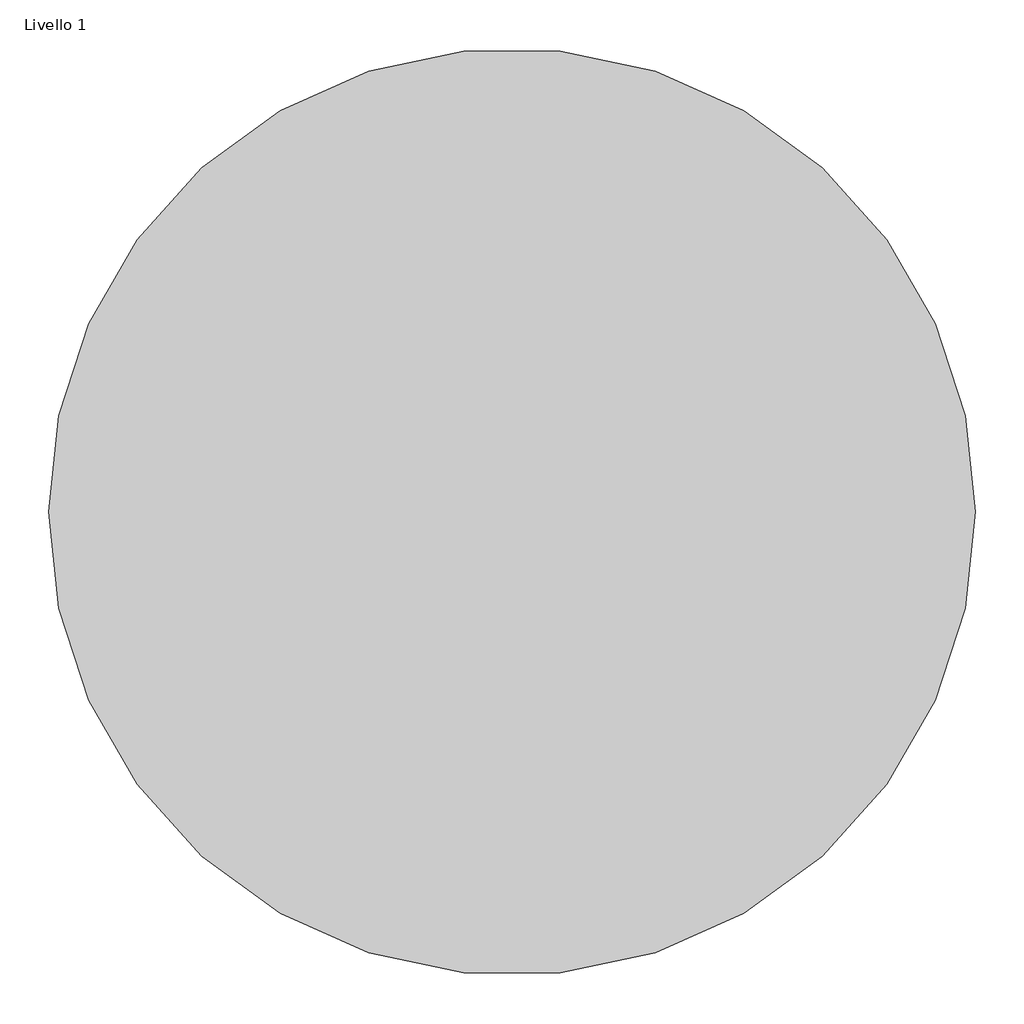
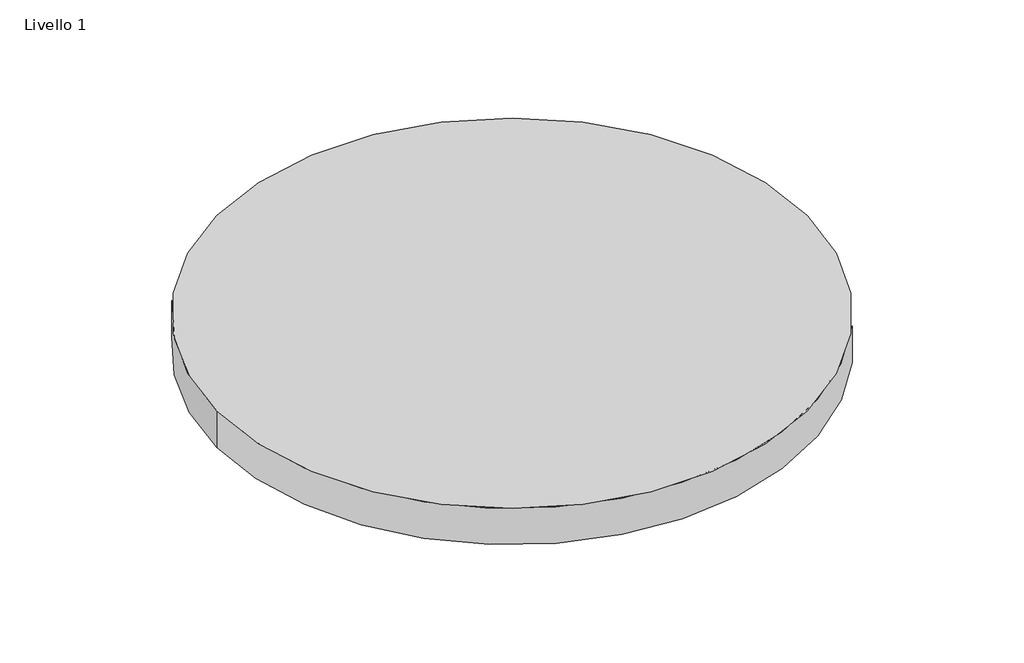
# One storey, incomplete: 1 proxy.
"""IFC4 building model written with IfcOpenShell, lengths in millimetres."""

from ifc_helpers import new_model, si_unit, origin, place, context, project, spatial, transform, mapped, element, save
from components import generic_models_ae8268bc

model = new_model("IFC4")

# Units and contexts
model_context = context("Model", 3, world=origin())
ifc_project = project(units=[si_unit("LENGTHUNIT", "METRE", prefix="MILLI")], contexts=[model_context])

# Site, building, storey
site = spatial("IfcSite", under=ifc_project)
building = spatial("IfcBuilding", under=site)
storey = spatial("IfcBuildingStorey", under=building, Name="Livello 1", Elevation=0.0)

# Proxy
placement = place(None, origin())
generic_models_shape = generic_models_ae8268bc(model_context)
element("IfcBuildingElementProxy", 1, Name="LFLO-MEXX-082", ObjectType="LFLO-MEXX-082", at=placement, inside=storey, context=model_context, shape_type="MappedRepresentation", body=[
    mapped(generic_models_shape, transform((0.0, 0.0, -1.0), x_axis=(1.0, 0.0, 0.0), y_axis=(0.0, 0.0, 1.0), z_axis=(0.0, -1.0, 0.0))),
])

save(model, "model.ifc")
